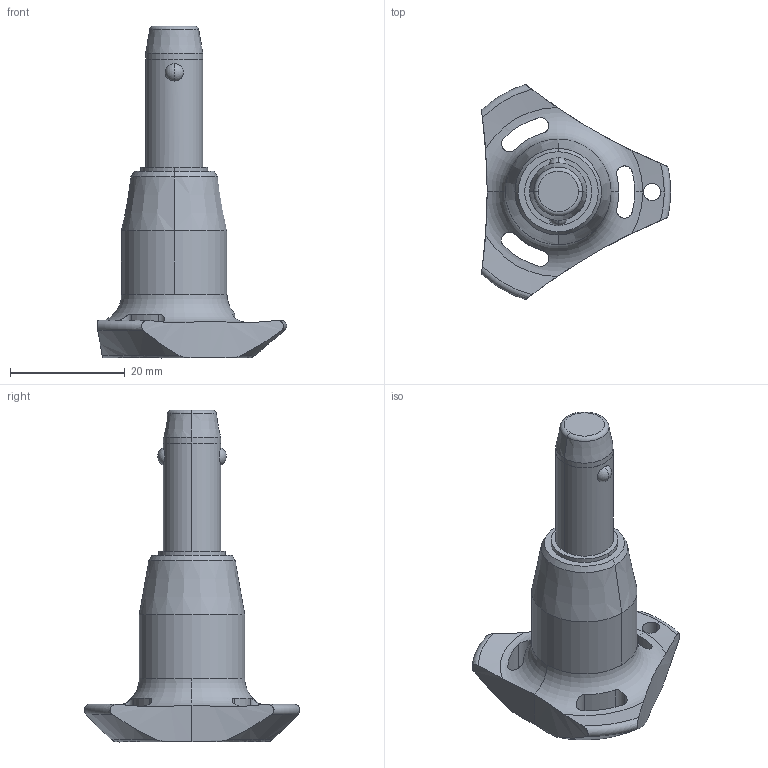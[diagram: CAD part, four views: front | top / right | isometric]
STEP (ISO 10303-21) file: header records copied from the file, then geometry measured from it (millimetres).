
FILE_DESCRIPTION (( 'STEP AP203' ), '1' );
FILE_NAME ('QR1736.M10-015-T.step', '2025-11-13T11:59:00', ( '' ), ( '' ), 'SwSTEP 2.0', 'SolidWorks 2019', '' );
FILE_SCHEMA (( 'CONFIG_CONTROL_DESIGN' ));
Length unit declared in the file: millimetre
Products named in the file (1): QR1736.M10-015-T
Bounding box: 33 x 37.51 x 57.9 mm (x, y, z)
Volume: 11585.2 mm3; surface area: 4564.6 mm2
Topology: 1 solids, 1 shells, 68 faces, 182 edges, 115 vertices
Faces by surface type: cylinder 32, cone 14, torus 11, sphere 6, plane 5
Entity records: 2843 total; most frequent: CARTESIAN_POINT 1087, ORIENTED_EDGE 364, DIRECTION 351, EDGE_CURVE 182, AXIS2_PLACEMENT_3D 156, VERTEX_POINT 115, CIRCLE 87, EDGE_LOOP 75
